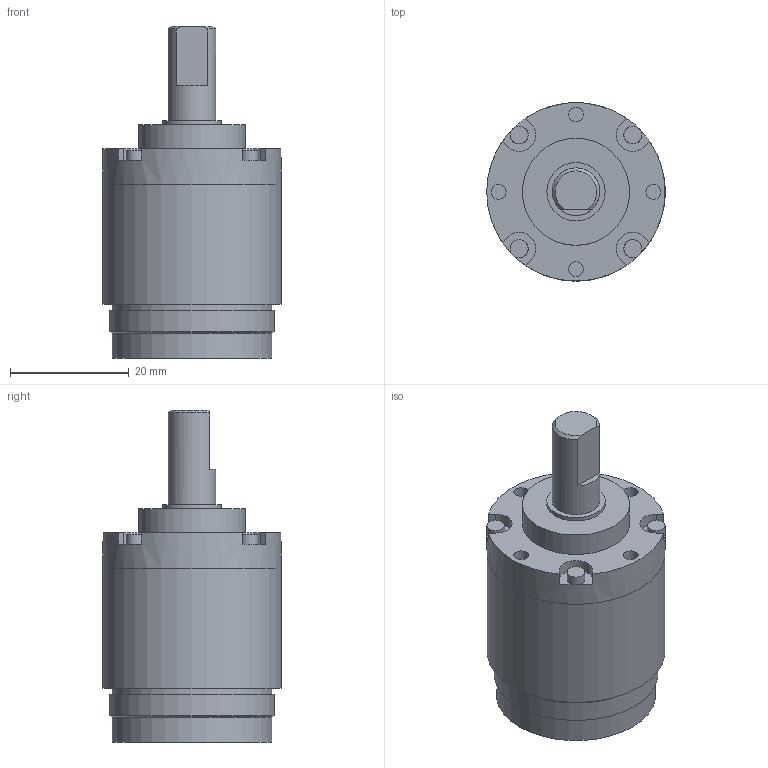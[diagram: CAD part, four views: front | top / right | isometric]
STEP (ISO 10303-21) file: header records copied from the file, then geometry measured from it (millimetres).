
FILE_DESCRIPTION(/* description */ (''),/* implementation_level */ '2;1');
FILE_NAME(/* name */ '30-1_3.stp',/* time_stamp */ '2016-09-07T09:51:48+02:00',/* author */ ('DR. FRITZ FAULHABER GmbH & Co. KG'),/* organization */ ('DR. FRITZ FAULHABER GmbH & Co. KG'),/* preprocessor_version */ 'ST-DEVELOPER v16',/* originating_system */ 'SIEMENS PLM Software NX 10.0',/* authorisation */ '');
FILE_SCHEMA (('AUTOMOTIVE_DESIGN { 1 0 10303 214 3 1 1 1 }'));
Length unit declared in the file: millimetre
Products named in the file (1): H00000174_A
Bounding box: 30 x 30 x 55.8 mm (x, y, z)
Volume: 24758.9 mm3; surface area: 5794.4 mm2
Topology: 1 solids, 1 shells, 62 faces, 153 edges, 119 vertices
Faces by surface type: plane 35, cylinder 25, cone 2
Full cylindrical faces by diameter (mm): 2.5 x4, 3 x4, 8 x1, 9.8 x1, 11.88 x1, 12.08 x1, 18 x1, 21.5 x1, 22.05 x1, 26.8 x2, 27.6 x1, 29.99 x1, 30 x2
Entity records: 1751 total; most frequent: DIRECTION 325, CARTESIAN_POINT 272, ORIENTED_EDGE 202, AXIS2_PLACEMENT_3D 140, EDGE_CURVE 101, EDGE_LOOP 99, VERTEX_POINT 78, CIRCLE 77
